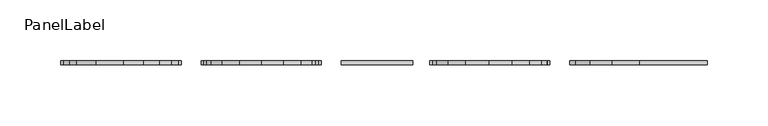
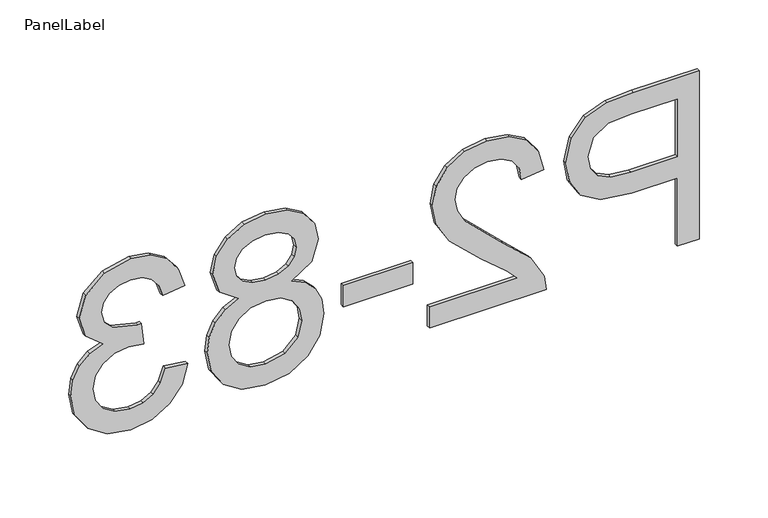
"""IFC4 building model written with IfcOpenShell, lengths in millimetres: fastener geometry, PanelLabel : Miranda."""

from ifc_helpers import new_model, si_unit, frame, origin, place, context, project, spatial, polyline, outline, extrude, source, transform, mapped, element, save


def panellabel_6a08c189(model_context):
    return source(origin(), model_context, "Body", "SweptSolid", [
        extrude(outline(polyline([(1310.9113766, 260.2523077), (1460.9667612, 260.2523077), (1460.9667612, 204.6409615), (1459.5380112, 182.2205769), (1452.5224823, 163.9948558), (1438.0151747, 152.1801923), (1417.554742, 147.7107692), (1399.8693814, 150.7285457), (1385.1331073, 159.781875), (1375.1868093, 176.7116466), (1371.8713766, 203.35875), (1371.8713766, 241.4953846), (1310.9113766, 241.4953846), (1310.9113766, 260.2523077)]), holes=[polyline([(1390.6282997, 241.4953846), (1390.6282997, 202.2597115), (1392.3501266, 185.6275962), (1397.5156073, 174.6372115), (1405.8041891, 168.5100721), (1416.8953189, 166.4676923), (1432.4283958, 171.2851442), (1440.9276266, 183.9424038), (1442.2098381, 202.6993269), (1442.2098381, 241.4953846), (1390.6282997, 241.4953846)])]), frame((0.0, 52.3875, 0.0), z_axis=(0.0, 1.0, 0.0), x_axis=(0.0, 0.0, 1.0)), (0.0, 0.0, 1.0), 3.175),
        extrude(outline(polyline([(1329.6682997, 32.8246154), (1310.9113766, 32.8246154), (1310.9113766, 131.2984615), (1323.8433958, 129.2835577), (1343.7543093, 117.8901923), (1365.4969535, 94.4074038), (1396.7462804, 62.0224038), (1407.5168573, 55.9502163), (1417.9943573, 53.9261538), (1427.3865569, 55.8357332), (1435.1943093, 61.5644712), (1440.4559559, 70.3705168), (1442.2098381, 81.5120192), (1440.4971698, 93.2121995), (1435.359165, 102.3021635), (1427.1988045, 108.1682813), (1416.4190689, 110.1969231), (1418.7636843, 128.9538462), (1436.9069775, 124.4065745), (1450.1595497, 114.5747596), (1458.2649583, 99.9712861), (1460.9667612, 81.1090385), (1457.9627227, 62.1094111), (1448.9506073, 47.5334135), (1435.4873862, 38.2602764), (1419.1300304, 35.1692308), (1401.3439247, 38.5029808), (1382.9533477, 49.5849519), (1357.254165, 76.4564423), (1339.211617, 98.0342308), (1329.6682997, 106.4968269), (1329.6682997, 32.8246154)])), frame((0.0, 52.3875, 0.0), z_axis=(0.0, 1.0, 0.0), x_axis=(0.0, 0.0, 1.0)), (0.0, 0.0, 1.0), 3.175),
        extrude(outline(polyline([(-39.8584615, 55.5625), (18.7569231, 55.5625), (18.7569231, 52.3875), (-39.8584615, 52.3875), (-39.8584615, 55.5625)])), frame((0.0, 0.0, 1355.4590689), z_axis=(0.0, 0.0, 1.0), x_axis=(1.0, 0.0, 0.0)), (0.0, 0.0, 1.0), 18.7569231),
        extrude(outline(polyline([(1393.5590689, -83.6001923), (1405.2088766, -66.5101442), (1423.3430112, -60.96), (1438.006016, -63.9823558), (1450.122915, -73.0494231), (1458.2557997, -87.1445913), (1460.9667612, -105.25125), (1458.1916891, -123.4678125), (1449.8664727, -137.7461538), (1437.557242, -146.9780769), (1422.8301266, -150.0553846), (1405.1539247, -144.5785096), (1393.5590689, -127.9647115), (1387.6105232, -139.5091947), (1378.8502708, -147.9122596), (1367.6996097, -153.0365264), (1354.5798381, -154.7446154), (1336.6471939, -151.3559135), (1321.828492, -141.1898077), (1311.8821939, -125.491875), (1308.5667612, -105.5076923), (1311.8959319, -85.5235096), (1321.8834439, -69.8255769), (1336.8441049, -59.6594712), (1355.0927227, -56.2707692), (1368.7207997, -58.0475481), (1379.930992, -63.3778846), (1388.3386362, -71.9870192), (1393.5590689, -83.6001923)]), holes=[polyline([(1422.793492, -79.7169231), (1414.6056554, -81.3792187), (1408.0663766, -86.3661058), (1403.7801266, -94.5310457), (1402.3513766, -105.7275), (1403.7709679, -116.6629327), (1408.029742, -124.7042308), (1414.3492131, -129.6499038), (1421.9508958, -131.2984615), (1429.8410761, -129.5949519), (1436.366617, -124.4844231), (1440.7490328, -116.3332212), (1442.2098381, -105.5076923), (1440.7810881, -94.6134736), (1436.4948381, -86.4760096), (1430.2120016, -81.4066947), (1422.793492, -79.7169231)]), polyline([(1355.7521458, -75.0276923), (1341.6295016, -78.1599519), (1331.060415, -89.2419231), (1327.3236843, -105.6542308), (1329.2882155, -118.4213942), (1335.1818093, -128.0013462), (1344.1069174, -133.9911058), (1355.165992, -135.9876923), (1366.4128189, -133.9269952), (1375.5348381, -127.7449038), (1381.5795497, -117.9451442), (1383.5944535, -105.0314423), (1381.6070256, -92.4428726), (1375.644742, -82.9590865), (1366.6967372, -77.0105409), (1355.7521458, -75.0276923)])]), frame((0.0, 52.3875, 0.0), z_axis=(0.0, 1.0, 0.0), x_axis=(0.0, 0.0, 1.0)), (0.0, 0.0, 1.0), 3.175),
        extrude(outline(polyline([(1350.7698381, -171.1569231), (1353.1144535, -189.9138462), (1341.327266, -194.1130889), (1333.3683958, -200.263125), (1328.8348622, -208.6661899), (1327.3236843, -219.6245192), (1329.4026987, -232.4832692), (1335.639742, -242.41125), (1344.9449343, -248.7581971), (1356.2283958, -250.8738462), (1366.9394415, -248.7765144), (1375.6264247, -242.4845192), (1381.3826386, -232.9595192), (1383.3013766, -221.1631731), (1381.2498381, -208.0113462), (1400.0067612, -210.0995192), (1399.7869535, -213.1035577), (1405.172242, -234.3882692), (1412.0045977, -241.4770673), (1421.7310881, -243.84), (1429.8319174, -242.1273317), (1436.4032516, -236.9893269), (1440.7581915, -229.1495192), (1442.2098381, -219.3314423), (1440.7444535, -209.4950481), (1436.3482997, -201.45375), (1429.0213766, -195.5830529), (1418.7636843, -192.2584615), (1421.1082997, -173.5015385), (1437.9510641, -179.0242067), (1450.5258958, -188.8514423), (1458.3565448, -202.2963462), (1460.9667612, -218.6720192), (1455.8195977, -241.2938942), (1441.7519054, -257.1200481), (1422.8301266, -262.5969231), (1405.5385881, -257.3948077), (1393.1194535, -242.0082692), (1388.3752708, -253.7496635), (1380.2973381, -262.4503846), (1369.3252708, -267.8356731), (1355.8986843, -269.6307692), (1337.6180112, -266.0405769), (1322.3413766, -255.27), (1312.010415, -239.0133894), (1308.5667612, -218.9650962), (1311.5066891, -200.8309615), (1320.3264727, -186.0672115), (1333.8171698, -175.8003606), (1350.7698381, -171.1569231)])), frame((0.0, 52.3875, 0.0), z_axis=(0.0, 1.0, 0.0), x_axis=(0.0, 0.0, 1.0)), (0.0, 0.0, 1.0), 3.175),
    ])


if __name__ == "__main__":
    model = new_model("IFC4")
    model_context = context("Model", 3, world=origin())
    ifc_project = project(units=[si_unit("LENGTHUNIT", "METRE", prefix="MILLI")], contexts=[model_context])
    site = spatial("IfcSite", under=ifc_project)
    building = spatial("IfcBuilding", under=site)
    placement = place(None, origin())
    panellabel_shape = panellabel_6a08c189(model_context)
    element("IfcFastener", 1, ObjectType="PanelLabel : Miranda", at=placement, inside=building, context=model_context, shape_type="MappedRepresentation", body=[
        mapped(panellabel_shape, transform((0.0, 0.0, 0.0), x_axis=(1.0, 0.0, 0.0), y_axis=(0.0, 1.0, 0.0), z_axis=(0.0, 0.0, 1.0))),
    ])
    save(model, "model.ifc")
